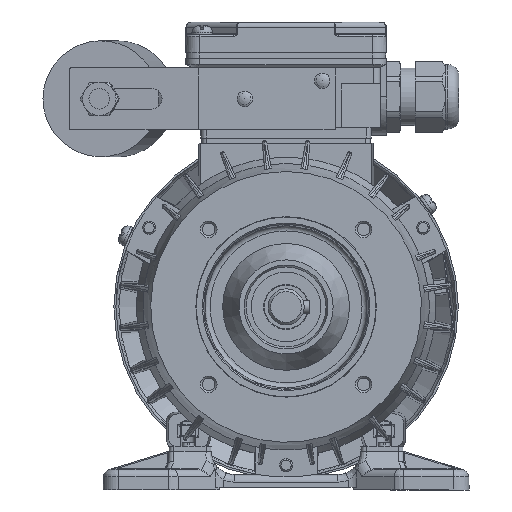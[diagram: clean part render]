
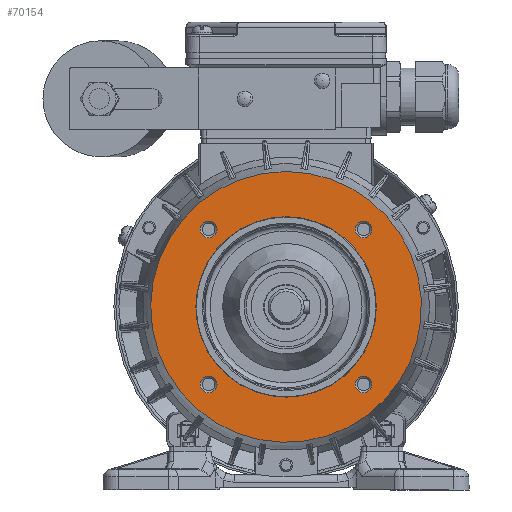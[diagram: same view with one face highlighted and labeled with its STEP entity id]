
A CAD part, front view. The second image highlights one B-rep face of the part: STEP entity #70154.
In plain terms, the highlighted planar face has unit normal (0, -1, 0).
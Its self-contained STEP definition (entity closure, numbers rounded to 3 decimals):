
#2795=CIRCLE('',#74291,35.);
#2796=CIRCLE('',#74293,3.259);
#2797=CIRCLE('',#74295,3.259);
#2798=CIRCLE('',#74297,3.259);
#2799=CIRCLE('',#74299,3.259);
#2954=CIRCLE('',#74553,52.5);
#11295=PLANE('',#74552);
#21742=ORIENTED_EDGE('',*,*,#31569,.T.);
#21743=ORIENTED_EDGE('',*,*,#31568,.T.);
#21744=ORIENTED_EDGE('',*,*,#31567,.T.);
#21745=ORIENTED_EDGE('',*,*,#31566,.T.);
#21746=ORIENTED_EDGE('',*,*,#31565,.F.);
#21747=ORIENTED_EDGE('',*,*,#31938,.T.);
#31565=EDGE_CURVE('',#37468,#37468,#2795,.T.);
#31566=EDGE_CURVE('',#37469,#37469,#2796,.T.);
#31567=EDGE_CURVE('',#37470,#37470,#2797,.T.);
#31568=EDGE_CURVE('',#37471,#37471,#2798,.T.);
#31569=EDGE_CURVE('',#37472,#37472,#2799,.T.);
#31938=EDGE_CURVE('',#37723,#37723,#2954,.T.);
#37468=VERTEX_POINT('',#108342);
#37469=VERTEX_POINT('',#108345);
#37470=VERTEX_POINT('',#108348);
#37471=VERTEX_POINT('',#108351);
#37472=VERTEX_POINT('',#108354);
#37723=VERTEX_POINT('',#111101);
#43442=EDGE_LOOP('',(#21742));
#43443=EDGE_LOOP('',(#21743));
#43444=EDGE_LOOP('',(#21744));
#43445=EDGE_LOOP('',(#21745));
#43446=EDGE_LOOP('',(#21746));
#43447=EDGE_LOOP('',(#21747));
#46806=FACE_BOUND('',#43442,.T.);
#46807=FACE_BOUND('',#43443,.T.);
#46808=FACE_BOUND('',#43444,.T.);
#46809=FACE_BOUND('',#43445,.T.);
#46810=FACE_BOUND('',#43446,.T.);
#46811=FACE_BOUND('',#43447,.T.);
#70154=ADVANCED_FACE('',(#46806,#46807,#46808,#46809,#46810,#46811),#11295,
 .F.);
#74291=AXIS2_PLACEMENT_3D('',#108341,#84377,#84378);
#74293=AXIS2_PLACEMENT_3D('',#108344,#84381,#84382);
#74295=AXIS2_PLACEMENT_3D('',#108347,#84385,#84386);
#74297=AXIS2_PLACEMENT_3D('',#108350,#84389,#84390);
#74299=AXIS2_PLACEMENT_3D('',#108353,#84393,#84394);
#74552=AXIS2_PLACEMENT_3D('',#111099,#84963,#84964);
#74553=AXIS2_PLACEMENT_3D('',#111100,#84965,#84966);
#84377=DIRECTION('',(0.,-1.,0.));
#84378=DIRECTION('',(0.,0.,1.));
#84381=DIRECTION('',(0.,1.,0.));
#84382=DIRECTION('',(1.,0.,0.));
#84385=DIRECTION('',(0.,1.,0.));
#84386=DIRECTION('',(1.,0.,0.));
#84389=DIRECTION('',(0.,1.,0.));
#84390=DIRECTION('',(1.,0.,0.));
#84393=DIRECTION('',(0.,1.,0.));
#84394=DIRECTION('',(1.,0.,0.));
#84963=DIRECTION('',(0.,1.,0.));
#84964=DIRECTION('',(0.,0.,-1.));
#84965=DIRECTION('',(0.,-1.,0.));
#84966=DIRECTION('',(0.,0.,1.));
#108341=CARTESIAN_POINT('',(0.,-90.5,0.));
#108342=CARTESIAN_POINT('',(0.,-90.5,35.));
#108344=CARTESIAN_POINT('',(30.052,-90.5,30.052));
#108345=CARTESIAN_POINT('',(33.311,-90.5,30.052));
#108347=CARTESIAN_POINT('',(30.052,-90.5,-30.052));
#108348=CARTESIAN_POINT('',(33.311,-90.5,-30.052));
#108350=CARTESIAN_POINT('',(-30.052,-90.5,-30.052));
#108351=CARTESIAN_POINT('',(-26.794,-90.5,-30.052));
#108353=CARTESIAN_POINT('',(-30.052,-90.5,30.052));
#108354=CARTESIAN_POINT('',(-26.794,-90.5,30.052));
#111099=CARTESIAN_POINT('',(0.,-90.5,52.5));
#111100=CARTESIAN_POINT('',(0.,-90.5,0.));
#111101=CARTESIAN_POINT('',(0.,-90.5,52.5));
